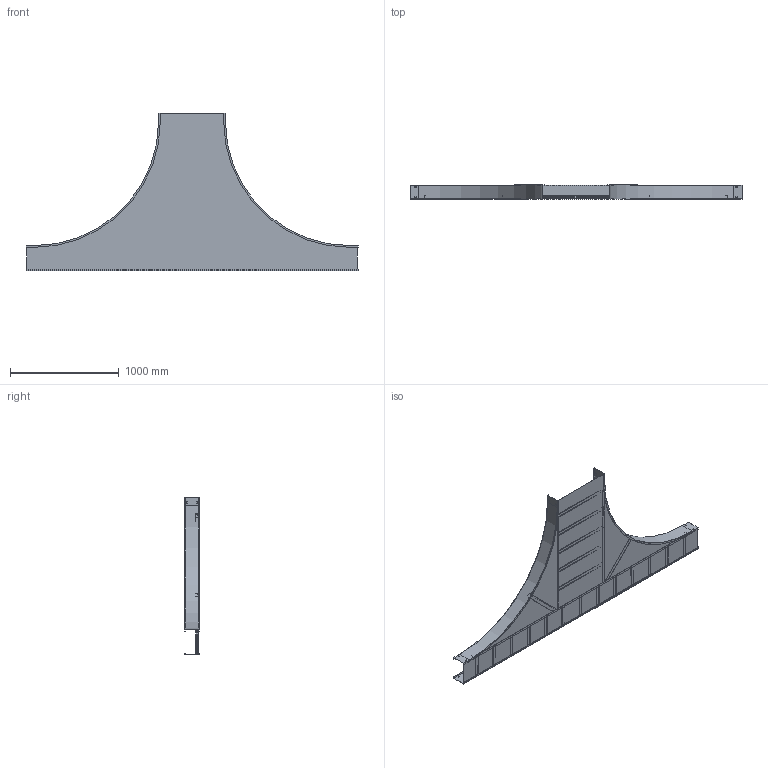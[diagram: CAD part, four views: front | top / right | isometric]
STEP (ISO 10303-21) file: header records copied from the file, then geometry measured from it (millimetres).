
FILE_DESCRIPTION((''),'2;1');
FILE_NAME('AUF50924SET48_ASM','2010-02-02T',('erouzier'),(''),'PRO/ENGINEER BY PARAMETRIC TECHNOLOGY CORPORATION, 2008510','PRO/ENGINEER BY PARAMETRIC TECHNOLOGY CORPORATION, 2008510','');
FILE_SCHEMA(('CONFIG_CONTROL_DESIGN'));
Length unit declared in the file: inch
Products named in the file (23): CDS001320-5-90-45-I; CDS013842-5-120; CDS000495_GEN_AF9; CDS002159L9_AF8; CDS002159L9_AF9; CDS002159L9_AF10; CDS002159L9_AF11; CDS002159L9; CDS002159L9_AF12; CDS002159L9_AF13; CDS002159L9_AF14; CDS002159L9_AF15; CDS000495_GEN_AF10; CDS000495_GEN_AF11; CDS002159L24_AF8; CDS002159L24_AF9; CDS002159L24_AF10; CDS002159L24_AF11; CDS002159L24; CDS002159L24_AF12; CDS002159L24_AF13; CDS004382-9-48-24; AUF50924SET48_ASM
Assembly tree (27 placements, depth 2):
  AUF50924SET48_ASM
    CDS001320-5-90-45-I  x2
    CDS013842-5-120
    CDS000495_GEN_AF9
    CDS002159L9_AF8
    CDS002159L9_AF9
    CDS002159L9_AF10
    CDS002159L9_AF11
    CDS002159L9  x5
    CDS002159L9_AF12
    CDS002159L9_AF13
    CDS002159L9_AF14
    CDS002159L9_AF15
    CDS000495_GEN_AF10
    CDS000495_GEN_AF11
    CDS002159L24_AF8
    CDS002159L24_AF9
    CDS002159L24_AF10
    CDS002159L24_AF11
    CDS002159L24
    CDS002159L24_AF12
    CDS002159L24_AF13
    CDS004382-9-48-24
Bounding box: 3053.08 x 129.03 x 1452.63 mm (x, y, z)
Volume: 6321382.5 mm3; surface area: 8494146.2 mm2
Topology: 27 solids, 27 shells, 736 faces, 2046 edges, 1364 vertices
Faces by surface type: plane 506, cylinder 230
Entity records: 19268 total; most frequent: CARTESIAN_POINT 3478, ORIENTED_EDGE 3228, DIRECTION 3198, EDGE_CURVE 1614, VECTOR 1250, LINE 1250, VERTEX_POINT 1076, AXIS2_PLACEMENT_3D 974
